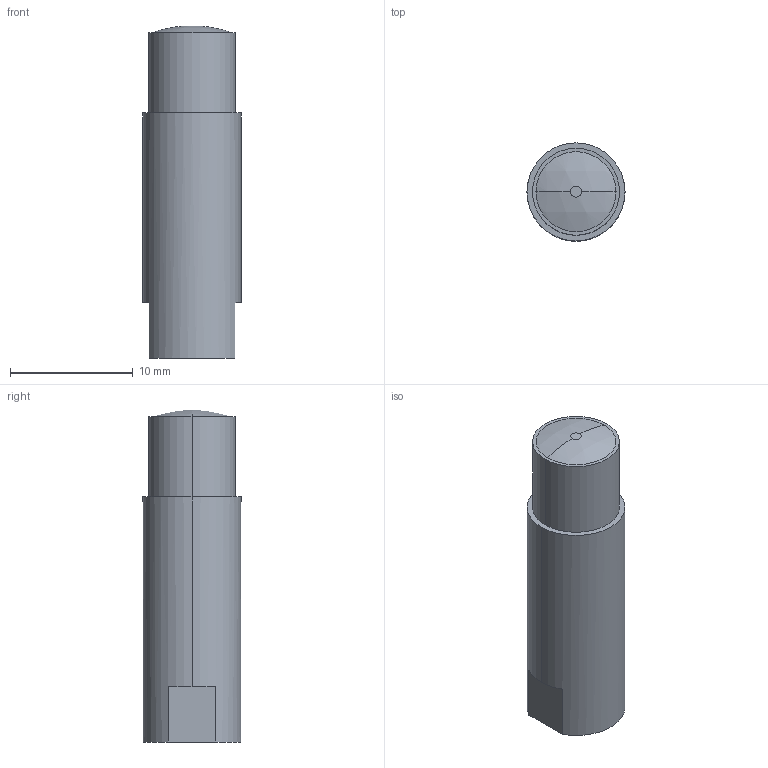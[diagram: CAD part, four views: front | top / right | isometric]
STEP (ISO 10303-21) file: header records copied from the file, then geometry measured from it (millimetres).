
FILE_DESCRIPTION (( 'STEP AP203' ), '1' );
FILE_NAME ('FX-MR2.STEP', '2005-09-08T02:46:57', ( '' ), ( '' ), 'SwSTEP 2.0', 'SolidWorks 2004073', '' );
FILE_SCHEMA (( 'CONFIG_CONTROL_DESIGN' ));
Length unit declared in the file: millimetre
Products named in the file (1): FX-MR2
Bounding box: 8 x 8 x 27.1 mm (x, y, z)
Volume: 1187.2 mm3; surface area: 824.3 mm2
Topology: 1 solids, 1 shells, 17 faces, 36 edges, 24 vertices
Faces by surface type: plane 9, cylinder 6, sphere 2
Entity records: 549 total; most frequent: DIRECTION 94, CARTESIAN_POINT 78, ORIENTED_EDGE 72, AXIS2_PLACEMENT_3D 40, EDGE_CURVE 36, VERTEX_POINT 24, CIRCLE 22, EDGE_LOOP 20
